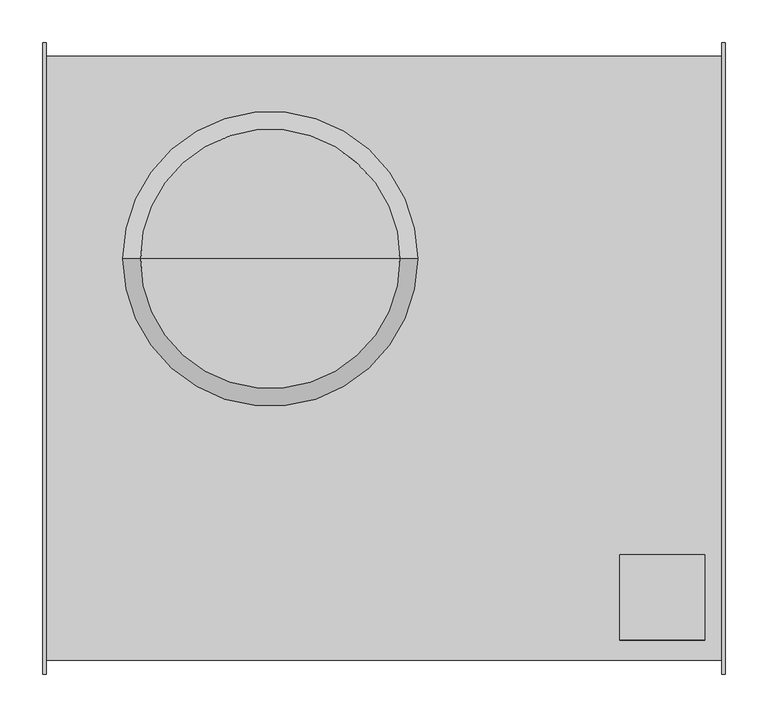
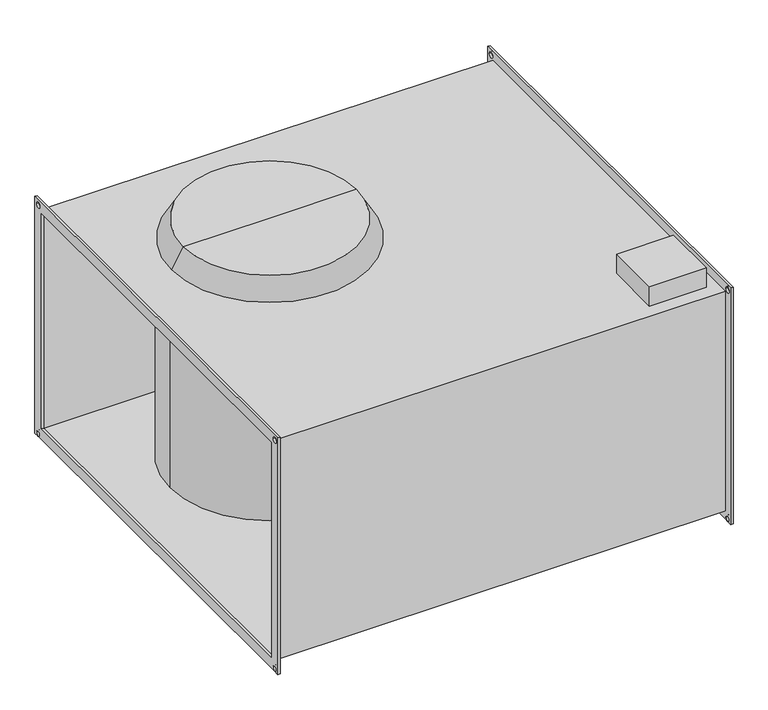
"""IFC4 building model written with IfcOpenShell, lengths in millimetres: proxy geometry."""

from ifc_helpers import new_model, si_unit, frame, origin, place, context, project, spatial, polyline, circle_curve, source, transform, mapped, element, save
from ifc_brep_helpers import plane_surface, cylinder_surface, revolved_surface, advanced_brep


def mechanical_equipment_ba056cf8(model_context):
    return source(origin(), model_context, "Body", "AdvancedBrep", [
        advanced_brep(
        [(396.0, 370.0, 220.0), (396.0, 370.0, -220.0), (396.0, 360.0, -220.0), (396.0, 365.0, -215.0), (396.0, 355.0, -215.0), (396.0, -360.0, -220.0), (396.0, -355.0, -215.0), (396.0, -365.0, -215.0), (396.0, -370.0, -220.0), (396.0, -370.0, 220.0), (396.0, 350.0, 200.0), (396.0, -350.0, 200.0), (396.0, -350.0, -200.0), (396.0, 350.0, -200.0), (396.0, 355.0, 210.0), (396.0, 365.0, 210.0), (396.0, -365.0, 210.0), (396.0, -355.0, 210.0), (400.0, 370.0, 220.0), (400.0, -370.0, 220.0), (400.0, -370.0, -220.0), (400.0, -360.0, -220.0), (400.0, -365.0, -215.0), (400.0, -355.0, -215.0), (400.0, 360.0, -220.0), (400.0, 355.0, -215.0), (400.0, 365.0, -215.0), (400.0, 370.0, -220.0), (400.0, 350.0, 200.0), (400.0, 350.0, -200.0), (400.0, -350.0, -200.0), (400.0, -350.0, 200.0), (400.0, 365.0, 210.0), (400.0, 355.0, 210.0), (400.0, -355.0, 210.0), (400.0, -365.0, 210.0)],
        [
            (0, 1),
            (1, 2),
            (2, 3, circle_curve(frame((396.0, 360.0, -215.0), z_axis=(1.0, 0.0, 0.0), x_axis=(0.0, 1.0, 0.0)), 5.0)),
            (3, 4, circle_curve(frame((396.0, 360.0, -215.0), z_axis=(1.0, 0.0, 0.0), x_axis=(0.0, 1.0, 0.0)), 5.0)),
            (4, 2, circle_curve(frame((396.0, 360.0, -215.0), z_axis=(1.0, 0.0, 0.0), x_axis=(0.0, 1.0, 0.0)), 5.0)),
            (2, 5),
            (5, 6, circle_curve(frame((396.0, -360.0, -215.0), z_axis=(1.0, 0.0, 0.0), x_axis=(0.0, 1.0, 0.0)), 5.0)),
            (6, 7, circle_curve(frame((396.0, -360.0, -215.0), z_axis=(1.0, 0.0, 0.0), x_axis=(0.0, 1.0, 0.0)), 5.0)),
            (7, 5, circle_curve(frame((396.0, -360.0, -215.0), z_axis=(1.0, 0.0, 0.0), x_axis=(0.0, 1.0, 0.0)), 5.0)),
            (5, 8),
            (8, 9),
            (9, 0),
            (10, 11),
            (11, 12),
            (12, 13),
            (13, 10),
            (14, 15, circle_curve(frame((396.0, 360.0, 210.0), z_axis=(1.0, 0.0, 0.0), x_axis=(0.0, 1.0, 0.0)), 5.0)),
            (15, 14, circle_curve(frame((396.0, 360.0, 210.0), z_axis=(1.0, 0.0, 0.0), x_axis=(0.0, 1.0, 0.0)), 5.0)),
            (16, 17, circle_curve(frame((396.0, -360.0, 210.0), z_axis=(1.0, 0.0, 0.0), x_axis=(0.0, 1.0, 0.0)), 5.0)),
            (17, 16, circle_curve(frame((396.0, -360.0, 210.0), z_axis=(1.0, 0.0, 0.0), x_axis=(0.0, 1.0, 0.0)), 5.0)),
            (18, 19),
            (19, 20),
            (20, 21),
            (21, 22, circle_curve(frame((400.0, -360.0, -215.0), z_axis=(-1.0, 0.0, 0.0), x_axis=(0.0, 1.0, 0.0)), 5.0)),
            (22, 23, circle_curve(frame((400.0, -360.0, -215.0), z_axis=(-1.0, 0.0, 0.0), x_axis=(0.0, 1.0, 0.0)), 5.0)),
            (23, 21, circle_curve(frame((400.0, -360.0, -215.0), z_axis=(-1.0, 0.0, 0.0), x_axis=(0.0, 1.0, 0.0)), 5.0)),
            (21, 24),
            (24, 25, circle_curve(frame((400.0, 360.0, -215.0), z_axis=(-1.0, 0.0, 0.0), x_axis=(0.0, 1.0, 0.0)), 5.0)),
            (25, 26, circle_curve(frame((400.0, 360.0, -215.0), z_axis=(-1.0, 0.0, 0.0), x_axis=(0.0, 1.0, 0.0)), 5.0)),
            (26, 24, circle_curve(frame((400.0, 360.0, -215.0), z_axis=(-1.0, 0.0, 0.0), x_axis=(0.0, 1.0, 0.0)), 5.0)),
            (24, 27),
            (27, 18),
            (28, 29),
            (29, 30),
            (30, 31),
            (31, 28),
            (32, 33, circle_curve(frame((400.0, 360.0, 210.0), z_axis=(-1.0, 0.0, 0.0), x_axis=(0.0, 1.0, 0.0)), 5.0)),
            (33, 32, circle_curve(frame((400.0, 360.0, 210.0), z_axis=(-1.0, 0.0, 0.0), x_axis=(0.0, 1.0, 0.0)), 5.0)),
            (34, 35, circle_curve(frame((400.0, -360.0, 210.0), z_axis=(-1.0, 0.0, 0.0), x_axis=(0.0, 1.0, 0.0)), 5.0)),
            (35, 34, circle_curve(frame((400.0, -360.0, 210.0), z_axis=(-1.0, 0.0, 0.0), x_axis=(0.0, 1.0, 0.0)), 5.0)),
            (13, 29),
            (28, 10),
            (12, 30),
            (11, 31),
            (9, 19),
            (18, 0),
            (8, 20),
            (1, 27),
            (14, 33),
            (32, 15),
            (16, 35),
            (34, 17),
            (7, 22),
            (23, 6),
            (4, 25),
            (26, 3),
        ],
        [
            plane_surface(frame((396.0, 350.0, -200.0), z_axis=(-1.0, 0.0, 0.0), x_axis=(0.0, 0.0, 1.0))),
            plane_surface(frame((400.0, 350.0, -200.0), z_axis=(1.0, 0.0, 0.0), x_axis=(0.0, 0.0, -1.0))),
            plane_surface(frame((400.0, 350.0, 200.0), z_axis=(0.0, -1.0, 0.0), x_axis=(-1.0, 0.0, 0.0))),
            plane_surface(frame((400.0, 350.0, -200.0), z_axis=(0.0, 0.0, 1.0), x_axis=(-1.0, 0.0, 0.0))),
            plane_surface(frame((400.0, -350.0, -200.0), z_axis=(0.0, 1.0, 0.0), x_axis=(-1.0, 0.0, 0.0))),
            plane_surface(frame((400.0, -350.0, 200.0), z_axis=(0.0, 0.0, -1.0), x_axis=(-1.0, 0.0, 0.0))),
            plane_surface(frame((400.0, 370.0, 220.0), z_axis=(0.0, 0.0, 1.0), x_axis=(-1.0, 0.0, 0.0))),
            plane_surface(frame((400.0, -370.0, 220.0), z_axis=(0.0, -1.0, 0.0), x_axis=(-1.0, 0.0, 0.0))),
            plane_surface(frame((400.0, -370.0, -220.0), z_axis=(0.0, 0.0, -1.0), x_axis=(-1.0, 0.0, 0.0))),
            plane_surface(frame((400.0, 370.0, -220.0), z_axis=(0.0, 1.0, 0.0), x_axis=(-1.0, 0.0, 0.0))),
            revolved_surface(polyline([(400.0, 365.0, 210.0), (396.0, 365.0, 210.0)]), (-400.0, 360.0, 210.0), (1.0, 0.0, 0.0)),
            revolved_surface(polyline([(400.0, -355.0, 210.0), (396.0, -355.0, 210.0)]), (0.0, -360.0, 210.0), (1.0, 0.0, 0.0)),
            revolved_surface(polyline([(400.0, -355.0, -215.0), (396.0, -355.0, -215.0)]), (0.0, -360.0, -215.0), (1.0, 0.0, 0.0)),
            revolved_surface(polyline([(400.0, 365.0, -215.0), (396.0, 365.0, -215.0)]), (0.0, 360.0, -215.0), (1.0, 0.0, 0.0)),
        ],
        [
            (0, [[1, 2, 3, 4, 5, 6, 7, 8, 9, 10, 11, 12], [13, 14, 15, 16], [17, 18], [19, 20]]),
            (1, [[21, 22, 23, 24, 25, 26, 27, 28, 29, 30, 31, 32], [33, 34, 35, 36], [37, 38], [39, 40]]),
            (2, [[-16, 41, -33, 42]]),
            (3, [[-15, 43, -34, -41]]),
            (4, [[-14, 44, -35, -43]]),
            (5, [[-13, -42, -36, -44]]),
            (6, [[-12, 45, -21, 46]]),
            (7, [[-11, 47, -22, -45]]),
            (8, [[-47, -10, -6, -2, 48, -31, -27, -23]]),
            (9, [[-1, -46, -32, -48]]),
            (10, [[49, -37, 50, -17]]),
            (10, [[-49, -18, -50, -38]]),
            (11, [[51, -39, 52, -19]]),
            (11, [[-51, -20, -52, -40]]),
            (12, [[53, -24, -26, 54, -7, -9]]),
            (12, [[-53, -8, -54, -25]]),
            (13, [[55, -28, -30, 56, -3, -5]]),
            (13, [[-55, -4, -56, -29]]),
        ],
    ),
        advanced_brep(
        [(-400.0, -370.0, 220.0), (-400.0, 370.0, 220.0), (-400.0, 370.0, -220.0), (-400.0, 360.0, -220.0), (-400.0, 365.0, -215.0), (-400.0, 355.0, -215.0), (-400.0, -360.0, -220.0), (-400.0, -355.0, -215.0), (-400.0, -365.0, -215.0), (-400.0, -370.0, -220.0), (-400.0, -350.0, 200.0), (-400.0, -350.0, -200.0), (-400.0, 350.0, -200.0), (-400.0, 350.0, 200.0), (-400.0, 355.0, 210.0), (-400.0, 365.0, 210.0), (-400.0, -365.0, 210.0), (-400.0, -355.0, 210.0), (-396.0, -370.0, 220.0), (-396.0, -370.0, -220.0), (-396.0, -360.0, -220.0), (-396.0, -365.0, -215.0), (-396.0, -355.0, -215.0), (-396.0, 360.0, -220.0), (-396.0, 355.0, -215.0), (-396.0, 365.0, -215.0), (-396.0, 370.0, -220.0), (-396.0, 370.0, 220.0), (-396.0, -350.0, 200.0), (-396.0, 350.0, 200.0), (-396.0, 350.0, -200.0), (-396.0, -350.0, -200.0), (-396.0, 365.0, 210.0), (-396.0, 355.0, 210.0), (-396.0, -355.0, 210.0), (-396.0, -365.0, 210.0)],
        [
            (0, 1),
            (1, 2),
            (2, 3),
            (3, 4, circle_curve(frame((-400.0, 360.0, -215.0), z_axis=(1.0, 0.0, 0.0), x_axis=(0.0, 1.0, 0.0)), 5.0)),
            (4, 5, circle_curve(frame((-400.0, 360.0, -215.0), z_axis=(1.0, 0.0, 0.0), x_axis=(0.0, 1.0, 0.0)), 5.0)),
            (5, 3, circle_curve(frame((-400.0, 360.0, -215.0), z_axis=(1.0, 0.0, 0.0), x_axis=(0.0, 1.0, 0.0)), 5.0)),
            (3, 6),
            (6, 7, circle_curve(frame((-400.0, -360.0, -215.0), z_axis=(1.0, 0.0, 0.0), x_axis=(0.0, 1.0, 0.0)), 5.0)),
            (7, 8, circle_curve(frame((-400.0, -360.0, -215.0), z_axis=(1.0, 0.0, 0.0), x_axis=(0.0, 1.0, 0.0)), 5.0)),
            (8, 6, circle_curve(frame((-400.0, -360.0, -215.0), z_axis=(1.0, 0.0, 0.0), x_axis=(0.0, 1.0, 0.0)), 5.0)),
            (6, 9),
            (9, 0),
            (10, 11),
            (11, 12),
            (12, 13),
            (13, 10),
            (14, 15, circle_curve(frame((-400.0, 360.0, 210.0), z_axis=(1.0, 0.0, 0.0), x_axis=(0.0, 1.0, 0.0)), 5.0)),
            (15, 14, circle_curve(frame((-400.0, 360.0, 210.0), z_axis=(1.0, 0.0, 0.0), x_axis=(0.0, 1.0, 0.0)), 5.0)),
            (16, 17, circle_curve(frame((-400.0, -360.0, 210.0), z_axis=(1.0, 0.0, 0.0), x_axis=(0.0, 1.0, 0.0)), 5.0)),
            (17, 16, circle_curve(frame((-400.0, -360.0, 210.0), z_axis=(1.0, 0.0, 0.0), x_axis=(0.0, 1.0, 0.0)), 5.0)),
            (18, 19),
            (19, 20),
            (20, 21, circle_curve(frame((-396.0, -360.0, -215.0), z_axis=(-1.0, 0.0, 0.0), x_axis=(0.0, 1.0, 0.0)), 5.0)),
            (21, 22, circle_curve(frame((-396.0, -360.0, -215.0), z_axis=(-1.0, 0.0, 0.0), x_axis=(0.0, 1.0, 0.0)), 5.0)),
            (22, 20, circle_curve(frame((-396.0, -360.0, -215.0), z_axis=(-1.0, 0.0, 0.0), x_axis=(0.0, 1.0, 0.0)), 5.0)),
            (20, 23),
            (23, 24, circle_curve(frame((-396.0, 360.0, -215.0), z_axis=(-1.0, 0.0, 0.0), x_axis=(0.0, 1.0, 0.0)), 5.0)),
            (24, 25, circle_curve(frame((-396.0, 360.0, -215.0), z_axis=(-1.0, 0.0, 0.0), x_axis=(0.0, 1.0, 0.0)), 5.0)),
            (25, 23, circle_curve(frame((-396.0, 360.0, -215.0), z_axis=(-1.0, 0.0, 0.0), x_axis=(0.0, 1.0, 0.0)), 5.0)),
            (23, 26),
            (26, 27),
            (27, 18),
            (28, 29),
            (29, 30),
            (30, 31),
            (31, 28),
            (32, 33, circle_curve(frame((-396.0, 360.0, 210.0), z_axis=(-1.0, 0.0, 0.0), x_axis=(0.0, 1.0, 0.0)), 5.0)),
            (33, 32, circle_curve(frame((-396.0, 360.0, 210.0), z_axis=(-1.0, 0.0, 0.0), x_axis=(0.0, 1.0, 0.0)), 5.0)),
            (34, 35, circle_curve(frame((-396.0, -360.0, 210.0), z_axis=(-1.0, 0.0, 0.0), x_axis=(0.0, 1.0, 0.0)), 5.0)),
            (35, 34, circle_curve(frame((-396.0, -360.0, 210.0), z_axis=(-1.0, 0.0, 0.0), x_axis=(0.0, 1.0, 0.0)), 5.0)),
            (9, 19),
            (18, 0),
            (2, 26),
            (1, 27),
            (13, 29),
            (28, 10),
            (12, 30),
            (11, 31),
            (14, 33),
            (32, 15),
            (16, 35),
            (34, 17),
            (8, 21),
            (22, 7),
            (5, 24),
            (25, 4),
        ],
        [
            plane_surface(frame((-400.0, -370.0, 220.0), z_axis=(-1.0, 0.0, 0.0), x_axis=(0.0, 0.0, 1.0))),
            plane_surface(frame((-396.0, -370.0, 220.0), z_axis=(1.0, 0.0, 0.0), x_axis=(0.0, 0.0, -1.0))),
            plane_surface(frame((-396.0, -370.0, 220.0), z_axis=(0.0, -1.0, 0.0), x_axis=(-1.0, 0.0, 0.0))),
            plane_surface(frame((-396.0, -370.0, -220.0), z_axis=(0.0, 0.0, -1.0), x_axis=(-1.0, 0.0, 0.0))),
            plane_surface(frame((-396.0, 370.0, -220.0), z_axis=(0.0, 1.0, 0.0), x_axis=(-1.0, 0.0, 0.0))),
            plane_surface(frame((-396.0, 370.0, 220.0), z_axis=(0.0, 0.0, 1.0), x_axis=(-1.0, 0.0, 0.0))),
            plane_surface(frame((-396.0, -350.0, 200.0), z_axis=(0.0, 0.0, -1.0), x_axis=(-1.0, 0.0, 0.0))),
            plane_surface(frame((-396.0, 350.0, 200.0), z_axis=(0.0, -1.0, 0.0), x_axis=(-1.0, 0.0, 0.0))),
            plane_surface(frame((-396.0, 350.0, -200.0), z_axis=(0.0, 0.0, 1.0), x_axis=(-1.0, 0.0, 0.0))),
            plane_surface(frame((-396.0, -350.0, -200.0), z_axis=(0.0, 1.0, 0.0), x_axis=(-1.0, 0.0, 0.0))),
            revolved_surface(polyline([(-396.0, 365.0, 210.0), (-400.0, 365.0, 210.0)]), (-400.0, 360.0, 210.0), (1.0, 0.0, 0.0)),
            revolved_surface(polyline([(-396.0, -355.0, 210.0), (-400.0, -355.0, 210.0)]), (0.0, -360.0, 210.0), (1.0, 0.0, 0.0)),
            revolved_surface(polyline([(-396.0, -355.0, -215.0), (-400.0, -355.0, -215.0)]), (0.0, -360.0, -215.0), (1.0, 0.0, 0.0)),
            revolved_surface(polyline([(-396.0, 365.0, -215.0), (-400.0, 365.0, -215.0)]), (0.0, 360.0, -215.0), (1.0, 0.0, 0.0)),
        ],
        [
            (0, [[1, 2, 3, 4, 5, 6, 7, 8, 9, 10, 11, 12], [13, 14, 15, 16], [17, 18], [19, 20]]),
            (1, [[21, 22, 23, 24, 25, 26, 27, 28, 29, 30, 31, 32], [33, 34, 35, 36], [37, 38], [39, 40]]),
            (2, [[-12, 41, -21, 42]]),
            (3, [[-41, -11, -7, -3, 43, -30, -26, -22]]),
            (4, [[-2, 44, -31, -43]]),
            (5, [[-1, -42, -32, -44]]),
            (6, [[-16, 45, -33, 46]]),
            (7, [[-15, 47, -34, -45]]),
            (8, [[-14, 48, -35, -47]]),
            (9, [[-13, -46, -36, -48]]),
            (10, [[49, -37, 50, -17]]),
            (10, [[-49, -18, -50, -38]]),
            (11, [[51, -39, 52, -19]]),
            (11, [[-51, -20, -52, -40]]),
            (12, [[53, -23, -25, 54, -8, -10]]),
            (12, [[-53, -9, -54, -24]]),
            (13, [[55, -27, -29, 56, -4, -6]]),
            (13, [[-55, -5, -56, -28]]),
        ],
    ),
        advanced_brep(
        [(-133.3333333, 116.6666667, 240.0), (-285.2393226, 116.6666667, 240.0), (18.5726559, 116.6666667, 240.0), (-308.3333333, 116.6666667, 200.0), (-308.3333333, 116.6666667, -200.0), (41.6666667, 116.6666667, -200.0), (41.6666667, 116.6666667, 200.0), (396.0, -354.0, 204.0), (396.0, -354.0, -204.0), (396.0, 354.0, -204.0), (396.0, 354.0, 204.0), (396.0, 350.0, 200.0), (396.0, 350.0, -200.0), (396.0, -350.0, -200.0), (396.0, -350.0, 200.0), (-396.0, -354.0, 204.0), (-396.0, 354.0, 204.0), (-396.0, 354.0, -204.0), (-396.0, -354.0, -204.0), (-396.0, 350.0, 200.0), (-396.0, -350.0, 200.0), (-396.0, -350.0, -200.0), (-396.0, 350.0, -200.0), (276.0, -230.0, 204.0), (376.0, -230.0, 204.0), (376.0, -330.0, 204.0), (276.0, -330.0, 204.0), (39.3572656, 116.6666667, 204.0), (-306.0239323, 116.6666667, 204.0), (376.0, -230.0, 240.0), (276.0, -230.0, 240.0), (276.0, -330.0, 240.0), (376.0, -330.0, 240.0)],
        [
            (0, 1),
            (1, 2, circle_curve(frame((-133.3333333, 116.6666667, 240.0), z_axis=(0.0, 0.0, 1.0), x_axis=(-1.0, 0.0, 0.0)), 151.9059892)),
            (2, 0),
            (2, 1, circle_curve(frame((-133.3333333, 116.6666667, 240.0), z_axis=(0.0, 0.0, 1.0), x_axis=(-1.0, 0.0, 0.0)), 151.9059892)),
            (3, 4),
            (4, 5, circle_curve(frame((-133.3333333, 116.6666667, -200.0), z_axis=(0.0, 0.0, 1.0), x_axis=(-1.0, 0.0, 0.0)), 175.0)),
            (5, 6),
            (6, 3, circle_curve(frame((-133.3333333, 116.6666667, 200.0), z_axis=(0.0, 0.0, -1.0), x_axis=(-1.0, 0.0, 0.0)), 175.0)),
            (3, 6, circle_curve(frame((-133.3333333, 116.6666667, 200.0), z_axis=(0.0, 0.0, -1.0), x_axis=(-1.0, 0.0, 0.0)), 175.0)),
            (5, 4, circle_curve(frame((-133.3333333, 116.6666667, -200.0), z_axis=(0.0, 0.0, 1.0), x_axis=(-1.0, 0.0, 0.0)), 175.0)),
            (7, 8),
            (8, 9),
            (9, 10),
            (10, 7),
            (11, 12),
            (12, 13),
            (13, 14),
            (14, 11),
            (15, 16),
            (16, 17),
            (17, 18),
            (18, 15),
            (19, 20),
            (20, 21),
            (21, 22),
            (22, 19),
            (11, 19),
            (22, 12),
            (21, 13),
            (20, 14),
            (7, 15),
            (18, 8),
            (17, 9),
            (16, 10),
            (23, 24),
            (24, 25),
            (25, 26),
            (26, 23),
            (27, 28, circle_curve(frame((-133.3333333, 116.6666667, 204.0), z_axis=(0.0, 0.0, -1.0), x_axis=(-1.0, 0.0, 0.0)), 172.6905989)),
            (28, 27, circle_curve(frame((-133.3333333, 116.6666667, 204.0), z_axis=(0.0, 0.0, -1.0), x_axis=(-1.0, 0.0, 0.0)), 172.6905989)),
            (29, 30),
            (30, 31),
            (31, 32),
            (32, 29),
            (29, 24),
            (23, 30),
            (26, 31),
            (25, 32),
            (1, 28),
            (27, 2),
        ],
        [
            plane_surface(frame((-133.3333333, 116.6666667, 240.0), z_axis=(0.0, 0.0, 1.0), x_axis=(-1.0, 0.0, 0.0))),
            cylinder_surface(frame((-133.3333333, 116.6666667, 2366.3096565), z_axis=(0.0, 0.0, 1.0), x_axis=(-1.0, 0.0, 0.0)), 175.0),
            plane_surface(frame((396.0, 350.0, -200.0), z_axis=(1.0, 0.0, 0.0), x_axis=(0.0, 0.0, -1.0))),
            plane_surface(frame((-396.0, 350.0, -200.0), z_axis=(-1.0, 0.0, 0.0), x_axis=(0.0, 0.0, 1.0))),
            plane_surface(frame((396.0, 350.0, 200.0), z_axis=(0.0, -1.0, 0.0), x_axis=(-1.0, 0.0, 0.0))),
            plane_surface(frame((396.0, 350.0, -200.0), z_axis=(0.0, 0.0, 1.0), x_axis=(-1.0, 0.0, 0.0))),
            plane_surface(frame((396.0, -350.0, -200.0), z_axis=(0.0, 1.0, 0.0), x_axis=(-1.0, 0.0, 0.0))),
            plane_surface(frame((396.0, -350.0, 200.0), z_axis=(0.0, 0.0, -1.0), x_axis=(-1.0, 0.0, 0.0))),
            plane_surface(frame((396.0, -354.0, 204.0), z_axis=(0.0, -1.0, 0.0), x_axis=(-1.0, 0.0, 0.0))),
            plane_surface(frame((396.0, -354.0, -204.0), z_axis=(0.0, 0.0, -1.0), x_axis=(-1.0, 0.0, 0.0))),
            plane_surface(frame((396.0, 354.0, -204.0), z_axis=(0.0, 1.0, 0.0), x_axis=(-1.0, 0.0, 0.0))),
            plane_surface(frame((396.0, 354.0, 204.0), z_axis=(0.0, 0.0, 1.0), x_axis=(-1.0, 0.0, 0.0))),
            plane_surface(frame((276.0, -230.0, 240.0), z_axis=(0.0, 0.0, 1.0), x_axis=(-1.0, 0.0, 0.0))),
            plane_surface(frame((376.0, -230.0, 240.0), z_axis=(0.0, 1.0, 0.0), x_axis=(0.0, 0.0, -1.0))),
            plane_surface(frame((276.0, -230.0, 240.0), z_axis=(-1.0, 0.0, 0.0), x_axis=(0.0, 0.0, -1.0))),
            plane_surface(frame((276.0, -330.0, 240.0), z_axis=(0.0, -1.0, 0.0), x_axis=(0.0, 0.0, -1.0))),
            plane_surface(frame((376.0, -330.0, 240.0), z_axis=(1.0, 0.0, 0.0), x_axis=(0.0, 0.0, -1.0))),
            revolved_surface(polyline([(-308.3333333, 116.6666667, 200.0), (-285.2393226, 116.6666667, 240.0)]), (-133.3333333, 116.6666667, 2366.3096565), (0.0, 0.0, 1.0)),
        ],
        [
            (0, [[1, 2, 3]]),
            (0, [[-1, -3, 4]]),
            (1, [[5, 6, 7, 8]]),
            (1, [[-5, 9, -7, 10]]),
            (2, [[11, 12, 13, 14], [15, 16, 17, 18]]),
            (3, [[19, 20, 21, 22], [23, 24, 25, 26]]),
            (4, [[-15, 27, -26, 28]]),
            (5, [[-16, -28, -25, 29], [-6, -10]]),
            (6, [[-17, -29, -24, 30]]),
            (7, [[-18, -30, -23, -27], [-8, -9]]),
            (8, [[-11, 31, -22, 32]]),
            (9, [[-12, -32, -21, 33]]),
            (10, [[-13, -33, -20, 34]]),
            (11, [[-14, -34, -19, -31], [35, 36, 37, 38], [39, 40]]),
            (12, [[41, 42, 43, 44]]),
            (13, [[-41, 45, -35, 46]]),
            (14, [[-42, -46, -38, 47]]),
            (15, [[-43, -47, -37, 48]]),
            (16, [[-44, -48, -36, -45]]),
            (17, [[-2, 49, -39, 50]]),
            (17, [[-4, -50, -40, -49]]),
        ],
    ),
    ])


if __name__ == "__main__":
    model = new_model("IFC4")
    model_context = context("Model", 3, world=origin())
    ifc_project = project(units=[si_unit("LENGTHUNIT", "METRE", prefix="MILLI")], contexts=[model_context])
    site = spatial("IfcSite", under=ifc_project)
    building = spatial("IfcBuilding", under=site)
    placement = place(None, origin())
    mechanical_equipment_shape = mechanical_equipment_ba056cf8(model_context)
    element("IfcBuildingElementProxy", 1, Name="Mechanical Equipment", at=placement, inside=building, context=model_context, shape_type="MappedRepresentation", body=[
        mapped(mechanical_equipment_shape, transform((0.0, 0.0, 0.0), x_axis=(1.0, 0.0, 0.0), y_axis=(0.0, 1.0, 0.0), z_axis=(0.0, 0.0, 1.0))),
    ])
    save(model, "model.ifc")
